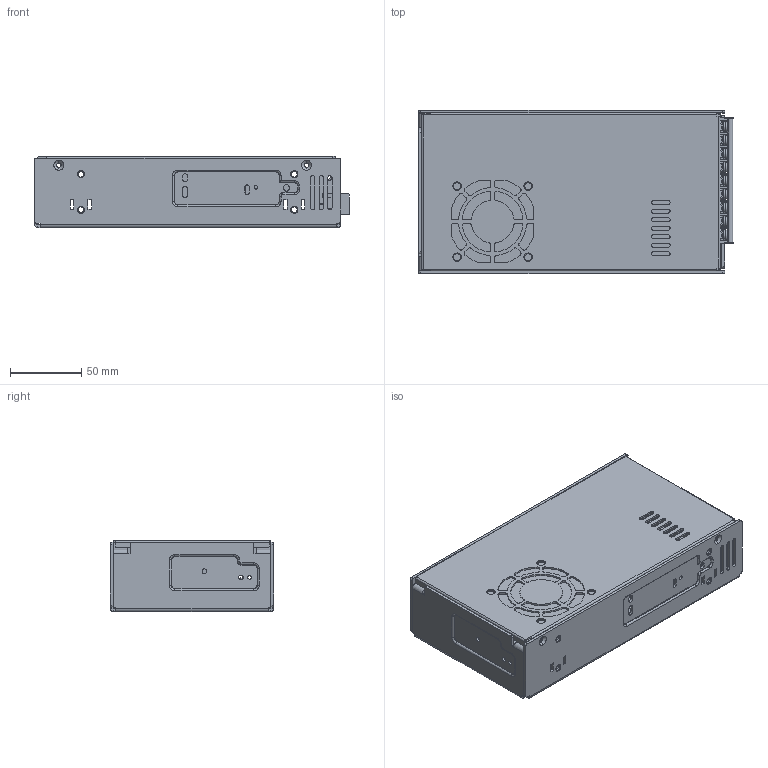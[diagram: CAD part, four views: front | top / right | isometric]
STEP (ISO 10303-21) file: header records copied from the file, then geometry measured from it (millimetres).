
FILE_DESCRIPTION((''),'2;1');
FILE_NAME('PMT-24V350W1AK_1AG_ASM','2020-12-14T',('EUNICE.HUANG'),(''),'PRO/ENGINEER BY PARAMETRIC TECHNOLOGY CORPORATION, 2015240','PRO/ENGINEER BY PARAMETRIC TECHNOLOGY CORPORATION, 2015240','');
FILE_SCHEMA(('AUTOMOTIVE_DESIGN { 1 0 10303 214 1 1 1 1 }'));
Products named in the file (23): MANIFOLD_SOLID_BREP_12414; MANIFOLD_SOLID_BREP_12569; CHASSIS_AF0_2_ASM_ASM; CHASSIS-STANDOFF_1; CHASSIS-STANDOFF-1_1; INSULATOR_AF0_1; CHASSIS_ASM_1_ASM_ASM; PWB_2_25_2013_3; 1_1; 2_1; 3_1; 4_1; 5_1; 6_1; 7_1; 8_1; 9_1; 10_1; T14-EO3109A301_ASM_1_ASM_ASM; CASE_ASM_1_ASM_ASM; COVER-01_3; CASE_ASM_ASM_ASM; PMT-24V350W1AK_1AG_ASM
Assembly tree (25 placements, depth 6):
  PMT-24V350W1AK_1AG_ASM
    CASE_ASM_ASM_ASM
      CASE_ASM_1_ASM_ASM
        CHASSIS_ASM_1_ASM_ASM
          CHASSIS_AF0_2_ASM_ASM
            MANIFOLD_SOLID_BREP_12414
            MANIFOLD_SOLID_BREP_12569
          CHASSIS-STANDOFF_1  x2
          CHASSIS-STANDOFF-1_1  x3
          INSULATOR_AF0_1
        PWB_2_25_2013_3
        T14-EO3109A301_ASM_1_ASM_ASM
          1_1
          2_1
          3_1
          4_1
          5_1
          6_1
          7_1
          8_1
          9_1
          10_1
      COVER-01_3
Bounding box: 221.2 x 115 x 50 mm (x, y, z)
Volume: 193205.5 mm3; surface area: 272371.1 mm2
Topology: 20 solids, 22 shells, 2298 faces, 6569 edges, 4347 vertices
Faces by surface type: plane 1292, cylinder 748, torus 136, bspline 82, cone 40
Entity records: 82823 total; most frequent: CARTESIAN_POINT 22288, ORIENTED_EDGE 12958, DIRECTION 11852, EDGE_CURVE 6479, VERTEX_POINT 4287, AXIS2_PLACEMENT_3D 4020, VECTOR 3812, LINE 3812
